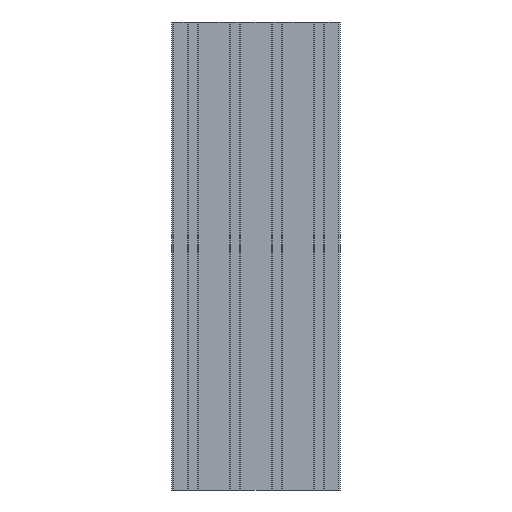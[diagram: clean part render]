
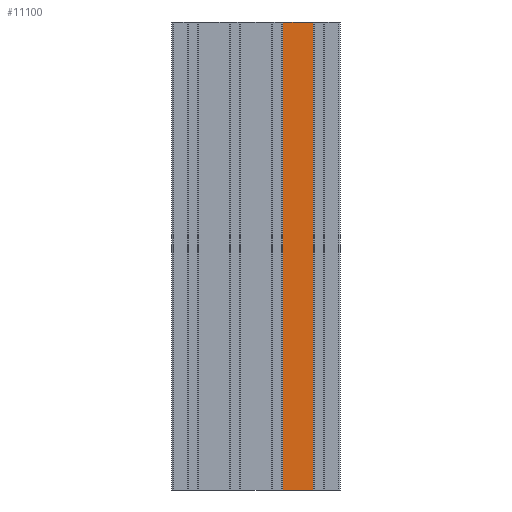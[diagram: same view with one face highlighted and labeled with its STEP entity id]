
A CAD part, front view. The second image highlights one B-rep face of the part: STEP entity #11100.
In plain terms, the highlighted planar face has unit normal (0, -1, 0).
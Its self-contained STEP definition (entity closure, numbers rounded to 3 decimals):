
#1160=FACE_OUTER_BOUND('',#1729,.T.);
#1729=EDGE_LOOP('',(#9079,#9080,#9081,#9082));
#2546=LINE('',#17689,#3714);
#2768=LINE('',#18282,#3936);
#2769=LINE('',#18285,#3937);
#2770=LINE('',#18286,#3938);
#3714=VECTOR('',#14384,10.);
#3936=VECTOR('',#14856,10.);
#3937=VECTOR('',#14859,10.);
#3938=VECTOR('',#14860,10.);
#4946=VERTEX_POINT('',#17686);
#4947=VERTEX_POINT('',#17688);
#5193=VERTEX_POINT('',#18280);
#5194=VERTEX_POINT('',#18284);
#6378=EDGE_CURVE('',#4946,#4947,#2546,.T.);
#6675=EDGE_CURVE('',#4946,#5193,#2768,.T.);
#6676=EDGE_CURVE('',#5194,#5193,#2769,.T.);
#6677=EDGE_CURVE('',#4947,#5194,#2770,.T.);
#9079=ORIENTED_EDGE('',*,*,#6675,.T.);
#9080=ORIENTED_EDGE('',*,*,#6676,.F.);
#9081=ORIENTED_EDGE('',*,*,#6677,.F.);
#9082=ORIENTED_EDGE('',*,*,#6378,.F.);
#10599=PLANE('',#12133);
#11100=ADVANCED_FACE('',(#1160),#10599,.T.);
#12133=AXIS2_PLACEMENT_3D('',#18283,#14857,#14858);
#14384=DIRECTION('',(-1.,0.,0.));
#14856=DIRECTION('',(0.,0.,1.));
#14857=DIRECTION('center_axis',(0.,-1.,0.));
#14858=DIRECTION('ref_axis',(1.,0.,0.));
#14859=DIRECTION('',(1.,0.,0.));
#14860=DIRECTION('',(0.,0.,1.));
#17686=CARTESIAN_POINT('',(61.4,-45.,-250.));
#17688=CARTESIAN_POINT('',(28.6,-45.,-250.));
#17689=CARTESIAN_POINT('',(28.6,-45.,-250.));
#18280=CARTESIAN_POINT('',(61.4,-45.,250.));
#18282=CARTESIAN_POINT('',(61.4,-45.,0.));
#18283=CARTESIAN_POINT('Origin',(28.6,-45.,0.));
#18284=CARTESIAN_POINT('',(28.6,-45.,250.));
#18285=CARTESIAN_POINT('',(28.6,-45.,250.));
#18286=CARTESIAN_POINT('',(28.6,-45.,0.));
